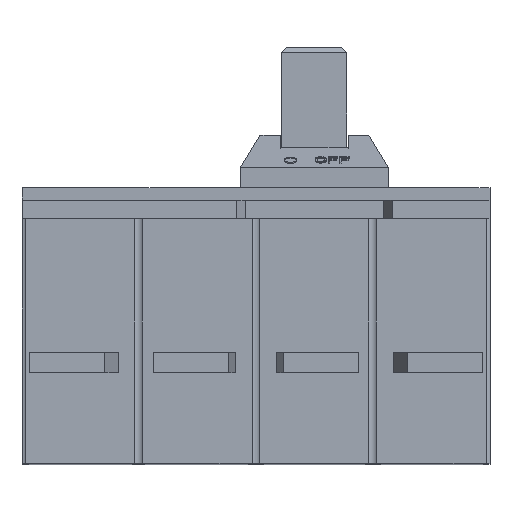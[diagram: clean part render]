
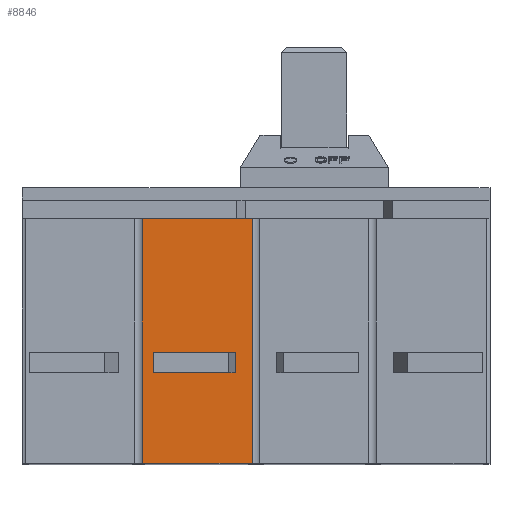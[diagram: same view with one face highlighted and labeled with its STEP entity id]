
A CAD part, top view. The second image highlights one B-rep face of the part: STEP entity #8846.
In plain terms, the highlighted planar face has unit normal (0, 0, 1).
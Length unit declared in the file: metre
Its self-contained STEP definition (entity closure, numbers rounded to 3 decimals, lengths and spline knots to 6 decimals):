
#237=LINE('',#12536,#1253);
#238=LINE('',#12539,#1254);
#241=LINE('',#12544,#1257);
#242=LINE('',#12546,#1258);
#939=LINE('',#14182,#1955);
#965=LINE('',#14241,#1981);
#966=LINE('',#14244,#1982);
#967=LINE('',#14245,#1983);
#1253=VECTOR('',#10129,0.008);
#1254=VECTOR('',#10132,0.03);
#1257=VECTOR('',#10137,0.008);
#1258=VECTOR('',#10140,0.03);
#1955=VECTOR('',#11643,0.04375);
#1981=VECTOR('',#11697,0.0975);
#1982=VECTOR('',#11700,0.04375);
#1983=VECTOR('',#11701,0.0975);
#2443=PLANE('',#9515);
#2607=FACE_BOUND('',#3648,.T.);
#3051=FACE_OUTER_BOUND('',#3647,.T.);
#3647=EDGE_LOOP('',(#7893,#7894,#7895,#7896));
#3648=EDGE_LOOP('',(#7897,#7898,#7899,#7900));
#4082=VERTEX_POINT('',#12532);
#4083=VERTEX_POINT('',#12534);
#4084=VERTEX_POINT('',#12538);
#4085=VERTEX_POINT('',#12542);
#4620=VERTEX_POINT('',#14179);
#4621=VERTEX_POINT('',#14181);
#4640=VERTEX_POINT('',#14239);
#4641=VERTEX_POINT('',#14243);
#4958=EDGE_CURVE('',#4083,#4082,#237,.T.);
#4959=EDGE_CURVE('',#4082,#4084,#238,.T.);
#4962=EDGE_CURVE('',#4085,#4084,#241,.T.);
#4963=EDGE_CURVE('',#4083,#4085,#242,.T.);
#5753=EDGE_CURVE('',#4621,#4620,#939,.T.);
#5784=EDGE_CURVE('',#4640,#4620,#965,.T.);
#5785=EDGE_CURVE('',#4640,#4641,#966,.T.);
#5786=EDGE_CURVE('',#4641,#4621,#967,.T.);
#7893=ORIENTED_EDGE('',*,*,#5753,.T.);
#7894=ORIENTED_EDGE('',*,*,#5784,.F.);
#7895=ORIENTED_EDGE('',*,*,#5785,.T.);
#7896=ORIENTED_EDGE('',*,*,#5786,.T.);
#7897=ORIENTED_EDGE('',*,*,#4962,.T.);
#7898=ORIENTED_EDGE('',*,*,#4959,.F.);
#7899=ORIENTED_EDGE('',*,*,#4958,.F.);
#7900=ORIENTED_EDGE('',*,*,#4963,.T.);
#8846=ADVANCED_FACE('',(#3051,#2607),#2443,.T.);
#9515=AXIS2_PLACEMENT_3D('',#14242,#11698,#11699);
#10129=DIRECTION('',(0.,-1.,0.));
#10132=DIRECTION('',(1.,0.,0.));
#10137=DIRECTION('',(0.,-1.,0.));
#10140=DIRECTION('',(1.,0.,0.));
#11643=DIRECTION('',(-1.,0.,0.));
#11697=DIRECTION('',(0.,1.,0.));
#11698=DIRECTION('center_axis',(0.,0.,1.));
#11699=DIRECTION('ref_axis',(1.,0.,0.));
#11700=DIRECTION('',(1.,0.,0.));
#11701=DIRECTION('',(0.,1.,0.));
#12532=CARTESIAN_POINT('',(-0.0615,-0.0614,0.13));
#12534=CARTESIAN_POINT('',(-0.0615,-0.0534,0.13));
#12536=CARTESIAN_POINT('',(-0.0615,-0.0534,0.13));
#12538=CARTESIAN_POINT('',(-0.0315,-0.0614,0.13));
#12539=CARTESIAN_POINT('',(-0.0615,-0.0614,0.13));
#12542=CARTESIAN_POINT('',(-0.0315,-0.0534,0.13));
#12544=CARTESIAN_POINT('',(-0.0315,-0.0534,0.13));
#12546=CARTESIAN_POINT('',(-0.0615,-0.0534,0.13));
#14179=CARTESIAN_POINT('',(-0.0685,0.,0.13));
#14181=CARTESIAN_POINT('',(-0.02475,0.,0.13));
#14182=CARTESIAN_POINT('',(-0.02475,0.,0.13));
#14239=CARTESIAN_POINT('',(-0.0685,-0.0975,0.13));
#14241=CARTESIAN_POINT('',(-0.0685,-0.0975,0.13));
#14242=CARTESIAN_POINT('Origin',(0.,0.,0.13));
#14243=CARTESIAN_POINT('',(-0.02475,-0.0975,0.13));
#14244=CARTESIAN_POINT('',(-0.0685,-0.0975,0.13));
#14245=CARTESIAN_POINT('',(-0.02475,-0.0975,0.13));
